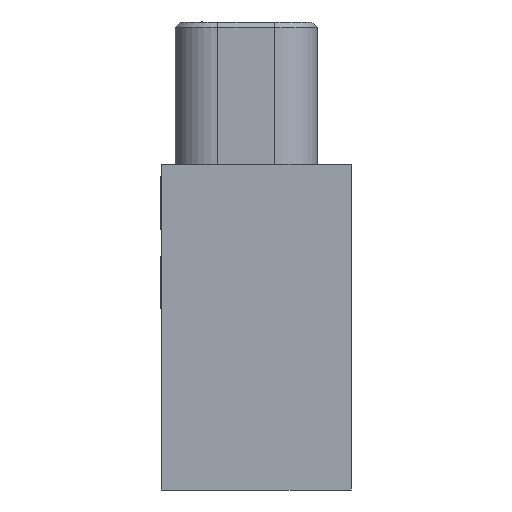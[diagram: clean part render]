
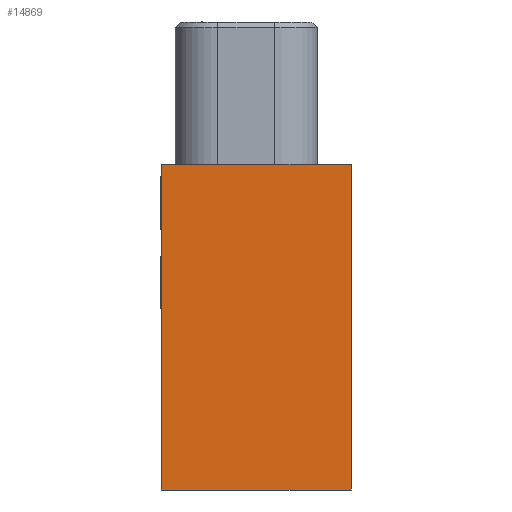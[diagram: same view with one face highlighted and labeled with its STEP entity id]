
A CAD part, left-side view. The second image highlights one B-rep face of the part: STEP entity #14869.
In plain terms, the highlighted planar face has unit normal (-1, 0, 0).
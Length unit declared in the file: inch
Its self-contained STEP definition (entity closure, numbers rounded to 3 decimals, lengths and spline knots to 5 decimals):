
#1529 = DIRECTION ( 'NONE',  ( 1., 0., 0. ) ) ;
#2469 = VERTEX_POINT ( 'NONE', #8959 ) ;
#3304 = DIRECTION ( 'NONE',  ( 0., -1., 0. ) ) ;
#3725 = LINE ( 'NONE', #26966, #29170 ) ;
#4124 = VERTEX_POINT ( 'NONE', #30126 ) ;
#4348 = EDGE_CURVE ( 'NONE', #7902, #4124, #10706, .T. ) ;
#6158 = VECTOR ( 'NONE', #13660, 39.37008 ) ;
#6858 = EDGE_CURVE ( 'NONE', #10720, #4124, #3725, .T. ) ;
#7902 = VERTEX_POINT ( 'NONE', #15843 ) ;
#8908 = ORIENTED_EDGE ( 'NONE', *, *, #6858, .F. ) ;
#8959 = CARTESIAN_POINT ( 'NONE',  ( -0.225, 0.07, 0.24 ) ) ;
#9568 = EDGE_CURVE ( 'NONE', #2469, #7902, #28746, .T. ) ;
#10706 = LINE ( 'NONE', #24214, #28522 ) ;
#10720 = VERTEX_POINT ( 'NONE', #29678 ) ;
#11362 = ORIENTED_EDGE ( 'NONE', *, *, #24560, .F. ) ;
#13116 = PLANE ( 'NONE',  #20501 ) ;
#13660 = DIRECTION ( 'NONE',  ( 0., -1., 0. ) ) ;
#14501 = EDGE_LOOP ( 'NONE', ( #11362, #24213, #19385, #8908 ) ) ;
#14869 = ADVANCED_FACE ( 'NONE', ( #26688 ), #13116, .F. ) ;
#15843 = CARTESIAN_POINT ( 'NONE',  ( -0.225, 0.07, 0. ) ) ;
#16400 = VECTOR ( 'NONE', #19270, 39.37008 ) ;
#17831 = DIRECTION ( 'NONE',  ( 0., 0., 1. ) ) ;
#17863 = DIRECTION ( 'NONE',  ( 0., 0., -1. ) ) ;
#18600 = LINE ( 'NONE', #29911, #6158 ) ;
#19270 = DIRECTION ( 'NONE',  ( 0., 0., -1. ) ) ;
#19385 = ORIENTED_EDGE ( 'NONE', *, *, #4348, .T. ) ;
#20501 = AXIS2_PLACEMENT_3D ( 'NONE', #29391, #1529, #17831 ) ;
#21557 = CARTESIAN_POINT ( 'NONE',  ( -0.225, 0.07, 0.345 ) ) ;
#24213 = ORIENTED_EDGE ( 'NONE', *, *, #9568, .T. ) ;
#24214 = CARTESIAN_POINT ( 'NONE',  ( -0.225, -0.07, 0. ) ) ;
#24560 = EDGE_CURVE ( 'NONE', #2469, #10720, #18600, .T. ) ;
#26688 = FACE_OUTER_BOUND ( 'NONE', #14501, .T. ) ;
#26966 = CARTESIAN_POINT ( 'NONE',  ( -0.225, -0.07, 0.345 ) ) ;
#28522 = VECTOR ( 'NONE', #3304, 39.37008 ) ;
#28746 = LINE ( 'NONE', #21557, #16400 ) ;
#29170 = VECTOR ( 'NONE', #17863, 39.37008 ) ;
#29391 = CARTESIAN_POINT ( 'NONE',  ( -0.225, -0.07, 0.345 ) ) ;
#29678 = CARTESIAN_POINT ( 'NONE',  ( -0.225, -0.07, 0.24 ) ) ;
#29911 = CARTESIAN_POINT ( 'NONE',  ( -0.225, -0.07, 0.24 ) ) ;
#30126 = CARTESIAN_POINT ( 'NONE',  ( -0.225, -0.07, 0. ) ) ;
